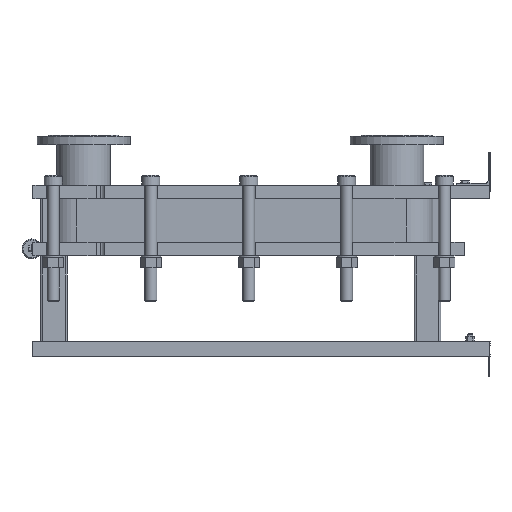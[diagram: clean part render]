
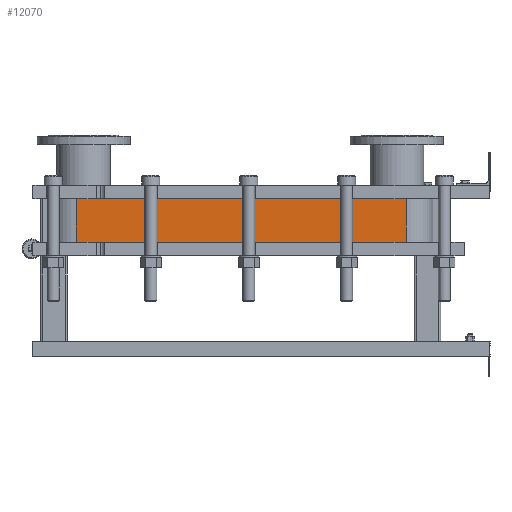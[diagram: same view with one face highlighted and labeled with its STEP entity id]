
A CAD part, left-side view. The second image highlights one B-rep face of the part: STEP entity #12070.
In plain terms, the highlighted planar face has unit normal (-1, 0, 0).
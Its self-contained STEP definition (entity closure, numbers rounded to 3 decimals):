
#1064=LINE('',#21140,#2164);
#1065=LINE('',#21144,#2165);
#1066=LINE('',#21146,#2166);
#1067=LINE('',#21147,#2167);
#2164=VECTOR('',#15790,10.);
#2165=VECTOR('',#15795,10.);
#2166=VECTOR('',#15796,10.);
#2167=VECTOR('',#15797,10.);
#3304=FACE_OUTER_BOUND('',#4091,.T.);
#4091=EDGE_LOOP('',(#9793,#9794,#9795,#9796));
#5677=VERTEX_POINT('',#21137);
#5678=VERTEX_POINT('',#21139);
#5679=VERTEX_POINT('',#21143);
#5680=VERTEX_POINT('',#21145);
#7118=EDGE_CURVE('',#5678,#5677,#1064,.T.);
#7120=EDGE_CURVE('',#5677,#5679,#1065,.T.);
#7121=EDGE_CURVE('',#5680,#5679,#1066,.T.);
#7122=EDGE_CURVE('',#5680,#5678,#1067,.T.);
#9793=ORIENTED_EDGE('',*,*,#7120,.T.);
#9794=ORIENTED_EDGE('',*,*,#7121,.F.);
#9795=ORIENTED_EDGE('',*,*,#7122,.T.);
#9796=ORIENTED_EDGE('',*,*,#7118,.T.);
#11441=PLANE('',#13191);
#12070=ADVANCED_FACE('',(#3304),#11441,.T.);
#13191=AXIS2_PLACEMENT_3D('',#21142,#15793,#15794);
#15790=DIRECTION('',(0.,0.,-1.));
#15793=DIRECTION('center_axis',(-1.,0.,0.));
#15794=DIRECTION('ref_axis',(0.,1.,0.));
#15795=DIRECTION('',(0.,-1.,0.));
#15796=DIRECTION('',(0.,0.,-1.));
#15797=DIRECTION('',(0.,1.,0.));
#21137=CARTESIAN_POINT('',(-248.152,1243.818,-131.1));
#21139=CARTESIAN_POINT('',(-248.152,1243.818,0.));
#21140=CARTESIAN_POINT('',(-248.152,1243.818,0.));
#21142=CARTESIAN_POINT('Origin',(-248.152,251.818,0.));
#21143=CARTESIAN_POINT('',(-248.152,251.818,-131.1));
#21144=CARTESIAN_POINT('',(-248.152,499.818,-131.1));
#21145=CARTESIAN_POINT('',(-248.152,251.818,0.));
#21146=CARTESIAN_POINT('',(-248.152,251.818,0.));
#21147=CARTESIAN_POINT('',(-248.152,251.818,0.));
